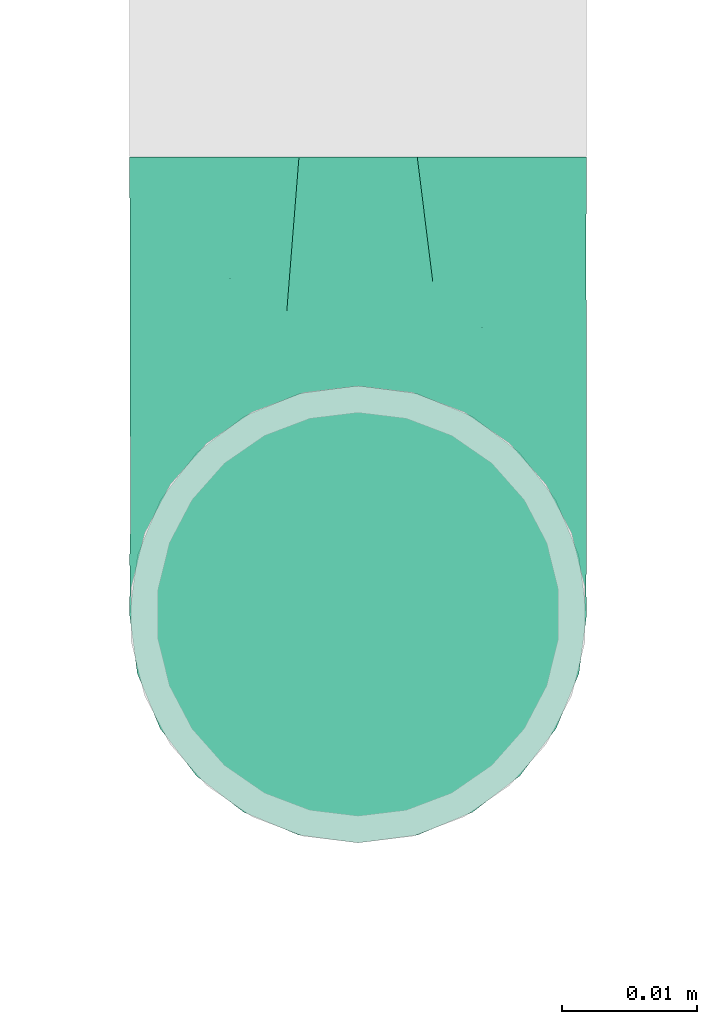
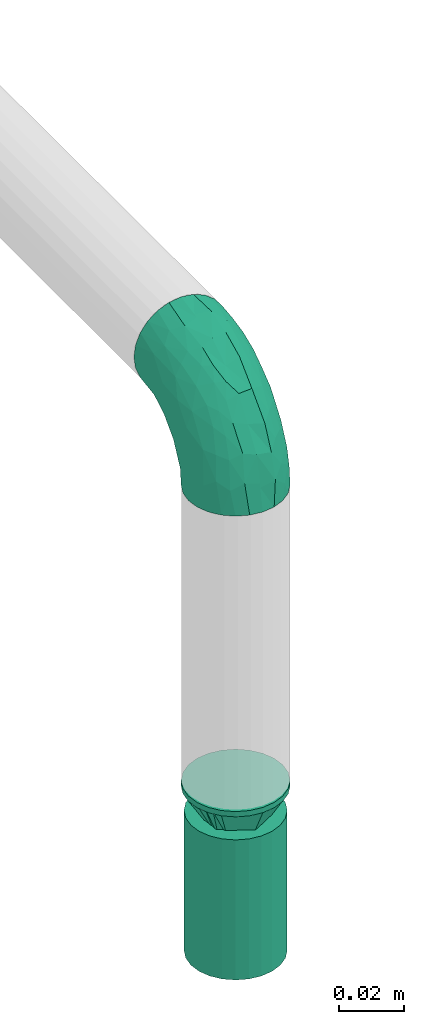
# One storey, part 16 of 51: 2 flow fittings, 1 flow terminal.
"""IFC2X3 building model written with IfcOpenShell, lengths in millimetres."""

from ifc_helpers import new_model, entity, si_unit, converted_unit, derived_unit, direction, frame, origin_with_axes, place, context, subcontext, project, spatial, open_shell, surface_model, source, transform, mapped, type_object, element, save


model = new_model("IFC2X3")

# Units and contexts
model_context = context("Model", 3, precision=0.01, world=frame((0.0, 4.29681676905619e-09, 0.0)), true_north=direction((4.01073788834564e-13, 1.0)))
plan_context = context("Plan", 3, precision=0.01, world=frame((0.0, 4.29681676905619e-09, 0.0)), true_north=direction((4.01073788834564e-13, 1.0)))
body_context = subcontext(model_context, "Body", "Model", "MODEL_VIEW")
ifc_project = project(units=[converted_unit("PLANEANGLEUNIT", "DEGREE", entity("IfcPositiveLengthMeasure", 0.0174532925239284), si_unit("PLANEANGLEUNIT", "RADIAN"), dimensions=[0, 0, 0, 0, 0, 0, 0]), si_unit("AREAUNIT", "SQUARE_METRE"), si_unit("LENGTHUNIT", "METRE", prefix="MILLI"), si_unit("MASSUNIT", "GRAM", prefix="KILO"), si_unit("POWERUNIT", "WATT"), si_unit("PRESSUREUNIT", "PASCAL"), si_unit("FORCEUNIT", "NEWTON", prefix="KILO"), si_unit("ELECTRICVOLTAGEUNIT", "VOLT"), si_unit("ELECTRICCURRENTUNIT", "AMPERE"), si_unit("THERMODYNAMICTEMPERATUREUNIT", "DEGREE_CELSIUS"), si_unit("TIMEUNIT", "SECOND"), si_unit("VOLUMEUNIT", "CUBIC_METRE"), derived_unit("LINEARVELOCITYUNIT", [(si_unit("LENGTHUNIT", "METRE"), 1), (si_unit("TIMEUNIT", "SECOND"), -1)]), derived_unit("VOLUMETRICFLOWRATEUNIT", [(si_unit("VOLUMEUNIT", "CUBIC_METRE"), 1), (si_unit("TIMEUNIT", "SECOND"), -1)]), derived_unit("THERMALTRANSMITTANCEUNIT", [(si_unit("POWERUNIT", "WATT"), 1), (si_unit("THERMODYNAMICTEMPERATUREUNIT", "KELVIN"), -1), (si_unit("AREAUNIT", "SQUARE_METRE"), -1)]), derived_unit("SOUNDPRESSUREUNIT", [(si_unit("PRESSUREUNIT", "PASCAL"), 1)])], contexts=[model_context, plan_context])

# Site, building, storey
site_placement = place(None, frame((0.0, -4.29681676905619e-09, 0.0), z_axis=(0.0, 0.0, 1.0), x_axis=(1.0, 0.0, 0.0)))
site = spatial("IfcSite", under=ifc_project, at=site_placement, Name="ENGM", CompositionType="ELEMENT")
building_placement = place(site_placement, frame((0.0, 4.29681676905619e-09, 0.0), z_axis=(0.0, 0.0, 1.0), x_axis=(1.0, 0.0, 0.0)))
building = spatial("IfcBuilding", under=site, at=building_placement, Name="TH", CompositionType="ELEMENT")
storey_placement = place(building_placement, frame((0.0, 0.0, 210200.0), z_axis=(0.0, 0.0, 1.0), x_axis=(1.0, 0.0, 0.0)))
storey = spatial("IfcBuildingStorey", under=building, at=storey_placement, Name="Nivå F - 0,7 m", CompositionType="ELEMENT", Elevation=210200.0)

# Flow fittings
pipe_fitting_type_1 = type_object("IfcPipeFittingType", Name="magi_pipe_fe_elbow_short_001", PredefinedType="BEND")
shared_shape_1 = source(origin_with_axes(), body_context, "Body", "SurfaceModel", [
    surface_model("IfcShellBasedSurfaceModel", [(-33.8, 8.45, -14.63583), (-33.8, 4.37404, -16.32415), (-33.8, 11.9501, -11.9501), (-33.8, -11.9501, -11.9501), (-33.8, -14.63583, -8.45), (-33.8, -8.45, -14.63583), (-33.8, 0.0, -16.9), (-33.8, -4.37404, -16.32415), (-33.8, -4.37404, 16.32415), (-33.8, 0.0, 16.9), (-33.8, -8.45, 14.63583), (-33.8, 16.32415, -4.37404), (-33.8, 14.63583, -8.45), (-33.8, -16.32415, -4.37404), (-33.8, -16.9, 0.0), (-33.8, -16.32415, 4.37404), (-33.8, 11.9501, 11.9501), (-33.8, 14.63583, 8.45), (-33.8, 16.32415, 4.37404), (-33.8, 4.37404, 16.32415), (-33.8, 8.45, 14.63583), (-33.8, -14.63583, 8.45), (-33.8, -11.9501, 11.9501), (-33.8, 16.9, 0.0), (-11.9501, 33.8, -11.9501), (0.0, 33.8, -16.9), (-4.37404, 33.8, -16.32415), (-8.45, 33.8, -14.63583), (-14.63583, 33.8, -8.45), (-16.32415, 33.8, -4.37404), (14.63583, 33.8, -8.45), (8.45, 33.8, 14.63583), (16.32415, 33.8, -4.37404), (8.45, 33.8, -14.63583), (11.9501, 33.8, -11.9501), (4.37404, 33.8, -16.32415), (16.32415, 33.8, 4.37404), (16.9, 33.8, 0.0), (-11.9501, 33.8, 11.9501), (-16.32415, 33.8, 4.37404), (-14.63583, 33.8, 8.45), (-8.45, 33.8, 14.63583), (-4.37404, 33.8, 16.32415), (11.9501, 33.8, 11.9501), (14.63583, 33.8, 8.45), (0.0, 33.8, 16.9), (4.37404, 33.8, 16.32415), (-16.9, 33.8, 0.0), (-24.79389, -13.12945, 9.48721), (-22.19287, -9.75018, 12.59315), (-24.09897, -14.97035, 0.0), (-14.93934, -10.76256, 8.5297), (-22.46095, -14.75051, 5.27077), (14.75051, 22.46094, 5.27077), (11.9251, 13.23888, 4.33236), (13.04069, 14.39795, 0.0), (7.71387, 13.68847, 11.55891), (9.75018, 22.19287, 12.59315), (4.10169, 13.0571, 14.04018), (-24.84007, -6.39063, 15.2048), (-25.81779, -2.23879, 16.61097), (-23.66549, 2.59054, 16.87119), (-26.50418, 14.06512, 11.08152), (-24.21253, 17.66365, 7.72657), (-29.58514, 15.86957, 7.00283), (-6.17382, -7.5455, 0.0), (-13.23888, -11.9251, 4.33236), (-14.39795, -13.04069, 0.0), (-17.81434, 18.87373, 11.97104), (-6.30846, 29.15138, 15.82987), (-2.31622, 25.28002, 16.85849), (-29.23923, 10.23435, 13.77053), (-1.45439, -2.85688, 7.61475), (-0.28326, 0.34872, 10.09509), (-5.74484, -4.04709, 10.4122), (-4.41137, 11.31918, 16.59407), (-8.39727, 3.10034, 15.7812), (-1.72649, 9.1306, 15.53089), (-17.39909, 24.75344, 7.64977), (-26.19233, 20.0512, 0.0), (-28.14518, 17.29657, 4.25857), (-26.05147, 6.6281, 15.96447), (-5.87354, 16.61944, 16.86968), (-12.51807, 12.51807, 16.48937), (-10.06312, 7.38516, 16.81295), (-3.01882, 3.01882, 13.81718), (-13.0571, -4.10169, 14.04018), (-16.82553, -0.15166, 16.38038), (10.76256, 14.93934, 8.5297), (13.12945, 24.79389, 9.48721), (6.39063, 24.84007, 15.2048), (2.23879, 25.81779, 16.61097), (-13.68847, -7.71387, 11.55891), (14.97035, 24.09897, 0.0), (-7.30894, 22.89991, 16.09489), (-10.67958, 26.17414, 14.008), (-12.78295, 18.26924, 15.06066), (-13.88562, 22.45231, 12.93244), (-18.04944, 15.16501, 14.04434), (-23.11658, 20.08178, 4.02986), (-21.84989, 21.84989, 0.0), (-18.55817, 25.48277, 3.93065), (-13.95142, 26.94732, 11.03289), (-18.57098, 7.23906, 16.59756), (-16.58335, 4.14122, 16.89279), (-17.96666, 11.46709, 15.63151), (-9.84453, 17.54304, 16.18938), (0.15166, 16.82553, 16.38038), (-23.27207, 11.47201, 14.23154), (3.84842, 5.86994, 10.70473), (-8.0212, -7.54413, 7.93275), (1.00345, -2.19508, 4.57414), (5.13203, 3.01004, 5.90201), (5.24161, 1.7543, 2.53265), (8.70457, 7.04947, 3.99182), (-20.0512, 26.19233, 0.0), (8.4852, 8.76699, 7.09296), (-4.55488, -6.72064, 4.90681), (2.05031, -2.05031, 0.0), (7.5455, 6.17382, 0.0), (-26.75399, 2.1369, -16.845), (-14.61995, 24.73803, -11.27736), (-28.45274, -13.45335, -9.81895), (-26.00469, 6.63555, -15.96645), (-23.06726, 20.04573, -4.26202), (-13.80647, -4.26506, -14.17873), (-14.67501, -0.21081, -16.07388), (-6.7902, -0.2828, -13.8478), (-24.53586, 11.08096, -14.13417), (-26.72048, 14.00837, -11.05776), (10.0967, 24.44989, -12.75976), (5.83237, 21.40218, -15.03047), (6.66249, 28.54238, -15.38093), (-20.38182, 15.48705, -12.74596), (12.53268, 21.23441, -9.15363), (12.54494, 15.67504, -5.54878), (9.7522, 12.89279, -8.66343), (-15.65186, 19.64213, -13.01327), (-12.03528, 20.66498, -14.67665), (-15.61907, 15.61906, -14.83879), (-25.56551, -15.26206, 0.0), (-24.65452, -15.12934, -5.50955), (13.45335, 28.45274, -9.81895), (15.12934, 24.65452, -5.50955), (-7.35442, -8.31014, -5.65563), (-15.67504, -12.54494, -5.54878), (-24.44989, -10.0967, -12.75976), (0.16522, 0.41303, -9.71728), (-5.70658, -5.33066, -8.89288), (-5.13869, -2.37198, -11.53565), (-21.23441, -12.53268, -9.15363), (0.71146, 7.93863, -14.09382), (0.21081, 14.67501, -16.07388), (3.49291, 14.42772, -14.76381), (-24.89911, -2.13088, -16.591), (-28.54238, -6.66249, -15.38093), (-18.44386, -7.71663, -13.26957), (2.13088, 24.89911, -16.591), (-28.64342, 17.44413, -2.89318), (1.70017, -1.28722, -5.09504), (-16.57067, 26.81947, -7.36596), (-17.69055, 27.4263, -3.76405), (-12.89279, -9.7522, -8.66343), (-5.96611, 5.96611, -15.95814), (-20.53709, 20.09345, -8.28985), (-2.1369, 26.75399, -16.845), (-6.89872, 24.58781, -16.02578), (-10.60739, 26.53157, -13.98044), (-21.40218, -5.83237, -15.03047), (2.93192, 5.89627, -11.55917), (6.89393, 12.61842, -11.82233), (5.58056, 5.95325, -8.79455), (-3.99512, 18.61798, -16.89635), (8.31014, 7.35442, -5.65563), (-9.1383, 9.86148, -16.89041), (-9.99983, 16.02119, -16.39699), (-16.68576, 9.78031, -16.34199), (-27.01915, 16.61158, -7.12979), (15.26206, 25.56551, 0.0), (-18.61798, 3.99512, -16.89635), (-19.37495, 27.82495, 0.0), (-12.61842, -6.89393, -11.82233), (-18.84705, 19.14018, -10.96545)], [open_shell([[[0, 1, 2]], [[3, 4, 5]], [[6, 7, 5]], [[8, 9, 10]], [[1, 6, 2]], [[11, 12, 2]], [[4, 2, 6]], [[2, 13, 10]], [[5, 4, 6]], [[2, 4, 13]], [[14, 15, 13]], [[11, 2, 16]], [[11, 17, 18]], [[11, 16, 17]], [[19, 20, 16]], [[16, 2, 10]], [[19, 16, 10]], [[21, 22, 15]], [[22, 13, 15]], [[22, 10, 13]], [[10, 9, 19]], [[11, 18, 23]], [[24, 25, 26]], [[24, 26, 27]], [[24, 28, 29]], [[25, 24, 30]], [[31, 32, 24]], [[33, 30, 34]], [[33, 35, 25]], [[25, 30, 33]], [[32, 30, 24]], [[32, 36, 37]], [[38, 24, 29]], [[39, 40, 29]], [[40, 38, 29]], [[38, 41, 42]], [[38, 31, 24]], [[31, 38, 42]], [[36, 43, 44]], [[36, 32, 43]], [[31, 45, 46]], [[32, 31, 43]], [[42, 45, 31]], [[39, 29, 47]], [[22, 48, 49]], [[15, 14, 50]], [[51, 48, 52]], [[53, 54, 55]], [[48, 22, 21]], [[15, 52, 21]], [[56, 57, 58]], [[49, 10, 22]], [[49, 59, 10]], [[9, 60, 61]], [[62, 63, 64]], [[65, 66, 67]], [[57, 43, 31]], [[62, 68, 63]], [[42, 69, 70]], [[20, 71, 16]], [[8, 60, 9]], [[72, 73, 74]], [[75, 76, 77]], [[16, 62, 17]], [[40, 39, 78]], [[79, 23, 80]], [[64, 18, 17]], [[9, 61, 19]], [[19, 81, 20]], [[82, 83, 84]], [[74, 85, 86]], [[59, 86, 87]], [[88, 89, 57]], [[90, 31, 46]], [[44, 53, 36]], [[46, 45, 91]], [[54, 53, 88]], [[44, 89, 53]], [[92, 86, 49]], [[89, 44, 43]], [[10, 59, 8]], [[53, 55, 93]], [[93, 36, 53]], [[66, 52, 67]], [[94, 82, 70]], [[95, 96, 94]], [[97, 98, 96]], [[79, 99, 100]], [[41, 38, 95]], [[101, 100, 99]], [[68, 78, 63]], [[42, 41, 69]], [[23, 18, 80]], [[95, 94, 69]], [[78, 101, 99]], [[38, 102, 95]], [[70, 45, 42]], [[97, 95, 102]], [[15, 50, 52]], [[90, 57, 31]], [[57, 90, 58]], [[81, 19, 61]], [[103, 104, 84]], [[105, 81, 103]], [[38, 40, 102]], [[106, 96, 83]], [[94, 106, 82]], [[91, 70, 107]], [[71, 62, 16]], [[62, 108, 98]], [[86, 59, 49]], [[67, 52, 50]], [[60, 59, 87]], [[92, 49, 51]], [[86, 85, 76]], [[91, 90, 46]], [[37, 36, 93]], [[107, 77, 58]], [[107, 58, 90]], [[58, 85, 109]], [[110, 74, 92]], [[72, 74, 110]], [[66, 51, 52]], [[72, 111, 112]], [[113, 114, 112]], [[56, 88, 57]], [[52, 48, 21]], [[49, 48, 51]], [[57, 89, 43]], [[53, 89, 88]], [[103, 81, 61]], [[71, 81, 108]], [[18, 64, 80]], [[63, 78, 99]], [[47, 115, 101]], [[101, 115, 100]], [[40, 78, 102]], [[68, 102, 78]], [[97, 96, 95]], [[105, 98, 108]], [[103, 84, 83]], [[107, 70, 82]], [[76, 84, 87]], [[82, 84, 75]], [[70, 91, 45]], [[90, 91, 107]], [[59, 60, 8]], [[61, 60, 87]], [[73, 85, 74]], [[109, 112, 116]], [[103, 61, 104]], [[105, 103, 83]], [[96, 105, 83]], [[81, 105, 108]], [[96, 98, 105]], [[62, 98, 68]], [[61, 87, 104]], [[87, 84, 104]], [[86, 76, 87]], [[77, 76, 85]], [[58, 77, 85]], [[75, 77, 107]], [[82, 75, 107]], [[76, 75, 84]], [[81, 71, 20]], [[62, 71, 108]], [[95, 69, 41]], [[70, 69, 94]], [[62, 64, 17]], [[80, 63, 99]], [[63, 80, 64]], [[80, 99, 79]], [[66, 65, 117]], [[110, 66, 117]], [[112, 114, 116]], [[118, 117, 65]], [[110, 92, 51]], [[112, 111, 113]], [[119, 55, 54]], [[74, 86, 92]], [[58, 109, 56]], [[116, 56, 109]], [[66, 110, 51]], [[72, 110, 117]], [[111, 72, 117]], [[73, 112, 109]], [[117, 118, 111]], [[113, 111, 118]], [[118, 119, 113]], [[114, 119, 54]], [[119, 114, 113]], [[116, 54, 88]], [[54, 116, 114]], [[116, 88, 56]], [[112, 73, 72]], [[85, 73, 109]], [[78, 39, 101]], [[47, 101, 39]], [[102, 68, 97]], [[97, 68, 98]], [[82, 106, 83]], [[94, 96, 106]], [[1, 120, 6]], [[28, 24, 121]], [[3, 122, 4]], [[0, 123, 1]], [[100, 124, 79]], [[125, 126, 127]], [[128, 2, 129]], [[130, 131, 132]], [[128, 129, 133]], [[134, 135, 136]], [[137, 138, 139]], [[128, 0, 2]], [[67, 140, 141]], [[134, 142, 143]], [[141, 13, 4]], [[144, 65, 145]], [[146, 3, 5]], [[147, 148, 149]], [[145, 141, 150]], [[151, 152, 153]], [[154, 7, 6]], [[5, 155, 146]], [[150, 146, 156]], [[155, 5, 7]], [[143, 135, 134]], [[35, 157, 25]], [[23, 79, 158]], [[148, 159, 144]], [[160, 161, 29]], [[145, 162, 144]], [[163, 152, 151]], [[29, 28, 160]], [[121, 164, 160]], [[33, 34, 130]], [[25, 165, 26]], [[26, 165, 166]], [[142, 34, 30]], [[24, 27, 167]], [[124, 161, 164]], [[157, 35, 132]], [[155, 154, 168]], [[123, 0, 128]], [[169, 170, 171]], [[172, 157, 152]], [[26, 166, 27]], [[132, 35, 33]], [[142, 130, 34]], [[168, 154, 126]], [[136, 135, 173]], [[133, 137, 139]], [[2, 12, 129]], [[170, 131, 130]], [[30, 32, 143]], [[172, 174, 175]], [[176, 123, 128]], [[158, 177, 11]], [[135, 55, 119]], [[167, 27, 166]], [[175, 166, 172]], [[137, 167, 138]], [[122, 141, 4]], [[140, 14, 13]], [[32, 37, 178]], [[170, 130, 134]], [[152, 157, 131]], [[165, 157, 172]], [[153, 170, 151]], [[152, 163, 174]], [[168, 125, 156]], [[122, 146, 150]], [[120, 154, 6]], [[179, 174, 126]], [[179, 126, 154]], [[126, 163, 127]], [[162, 145, 150]], [[140, 13, 141]], [[32, 178, 143]], [[55, 143, 178]], [[177, 129, 12]], [[128, 133, 139]], [[176, 128, 139]], [[120, 123, 179]], [[121, 160, 28]], [[161, 100, 180]], [[166, 175, 138]], [[121, 24, 167]], [[161, 47, 29]], [[79, 124, 158]], [[124, 164, 177]], [[161, 124, 100]], [[136, 171, 170]], [[127, 163, 151]], [[147, 171, 159]], [[148, 144, 162]], [[127, 151, 169]], [[127, 181, 125]], [[129, 177, 164]], [[12, 11, 177]], [[159, 65, 144]], [[67, 141, 145]], [[143, 55, 135]], [[135, 119, 173]], [[123, 120, 1]], [[154, 120, 179]], [[157, 165, 25]], [[166, 165, 172]], [[172, 152, 174]], [[176, 139, 175]], [[126, 174, 163]], [[176, 174, 179]], [[174, 176, 175]], [[123, 176, 179]], [[150, 181, 162]], [[127, 149, 181]], [[181, 148, 162]], [[159, 148, 147]], [[171, 136, 173]], [[170, 134, 136]], [[159, 171, 173]], [[171, 147, 169]], [[169, 147, 149]], [[151, 170, 169]], [[164, 182, 129]], [[182, 121, 137]], [[181, 149, 148]], [[169, 149, 127]], [[182, 137, 133]], [[167, 137, 121]], [[166, 138, 167]], [[175, 139, 138]], [[129, 182, 133]], [[121, 182, 164]], [[161, 160, 164]], [[47, 161, 180]], [[177, 158, 124]], [[23, 158, 11]], [[130, 132, 33]], [[157, 132, 131]], [[143, 142, 30]], [[130, 142, 134]], [[154, 155, 7]], [[146, 155, 168]], [[146, 122, 3]], [[141, 122, 150]], [[152, 131, 153]], [[159, 119, 118]], [[67, 145, 65]], [[170, 153, 131]], [[119, 159, 173]], [[159, 118, 65]], [[156, 125, 181]], [[126, 125, 168]], [[150, 156, 181]], [[168, 156, 146]]])]),
])
flow_fitting_1_placement = place(storey_placement, frame((897100.0, 481369.15075, 3056.95199999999), z_axis=(-1.0, 0.0, 0.0), x_axis=(0.0, 0.0, 1.0)))
element("IfcFlowFitting", 1, at=flow_fitting_1_placement, inside=storey, type_object=pipe_fitting_type_1, Name="magi_pipe_fe_elbow_short_001", context=body_context, shape_type="MappedRepresentation", body=[
    mapped(shared_shape_1, transform((0.0, 0.0, 0.0), scale=1.0)),
])
pipe_fitting_type_2 = type_object("IfcPipeFittingType", Name="magi_pipe_fe_reducer_centric_short_NOR", PredefinedType="TRANSITION")
shared_shape_2 = source(origin_with_axes(), body_context, "Body", "SurfaceModel", [
    surface_model("IfcShellBasedSurfaceModel", [(-2.0, -7.56604, -7.56604), (-2.0, -10.33541, -2.76936), (-2.0, -5.35, -9.26647), (12.4, 11.9501, 11.9501), (12.4, 0.0, 16.9), (12.4, 11.9501, -11.9501), (12.4, 16.9, 0.0), (0.0, -10.7, 0.0), (0.0, -5.35, 9.26647), (0.0, -5.35, -9.26647), (12.4, -15.66253, -2.98753), (12.4, -16.9, 0.0), (12.4, -11.9501, -11.9501), (0.0, -6.6875, -6.94985), (12.4, -8.96258, -13.18758), (0.0, 10.7, 0.0), (12.4, 15.66253, -2.98753), (12.4, -5.97505, -14.42505), (12.4, 8.96258, -13.18758), (0.0, 6.6875, -6.94985), (12.4, 5.97505, -14.42505), (0.0, 5.35, -9.26647), (0.0, -9.3625, -2.31662), (0.0, -8.025, -4.63324), (12.4, -14.42505, -5.97505), (12.4, 14.42505, -5.97505), (0.0, 8.025, -4.63324), (0.0, 9.3625, -2.31662), (12.4, 13.18758, -8.96258), (12.4, -13.18758, -8.96258), (12.4, 15.66253, 2.98753), (0.0, 6.6875, 6.94985), (12.4, 8.96258, 13.18758), (12.4, -15.66253, 2.98753), (0.0, 5.35, 9.26647), (12.4, 5.97505, 14.42505), (12.4, -8.96258, 13.18758), (0.0, -6.6875, 6.94985), (12.4, -11.9501, 11.9501), (12.4, -5.97505, 14.42505), (0.0, 9.3625, 2.31662), (0.0, 8.025, 4.63324), (12.4, 14.42505, 5.97505), (12.4, -14.42505, 5.97505), (0.0, -8.025, 4.63324), (0.0, -9.3625, 2.31662), (12.4, -13.18758, 8.96258), (12.4, 13.18758, 8.96258), (14.4, -11.9501, -11.9501), (14.4, -8.45, -14.63583), (14.4, -4.37404, -16.32415), (14.4, 8.45, -14.63583), (14.4, 16.9, 0.0), (14.4, -14.63583, -8.45), (14.4, -16.32415, -4.37404), (14.4, -4.37404, 16.32415), (14.4, 4.37404, -16.32415), (14.4, 0.0, -16.9), (14.4, 14.63583, -8.45), (14.4, 16.32415, -4.37404), (14.4, 11.9501, -11.9501), (14.4, -16.32415, 4.37404), (14.4, -16.9, 0.0), (14.4, -11.9501, 11.9501), (14.4, -14.63583, 8.45), (14.4, -8.45, 14.63583), (14.4, 0.0, 16.9), (14.4, 16.32415, 4.37404), (14.4, 14.63583, 8.45), (14.4, 11.9501, 11.9501), (14.4, 8.45, 14.63583), (14.4, 4.37404, 16.32415), (12.4, 14.63583, 8.45), (12.4, -4.37404, 16.32415), (12.4, -8.45, 14.63583), (12.4, -16.32415, 4.37404), (12.4, -14.63583, 8.45), (12.4, 8.45, 14.63583), (12.4, 4.37404, 16.32415), (12.4, 16.32415, 4.37404), (12.4, 16.32415, -4.37404), (12.4, 8.45, -14.63583), (12.4, -16.32415, -4.37404), (12.4, -14.63583, -8.45), (12.4, -4.37404, -16.32415), (12.4, -8.45, -14.63583), (12.4, 14.63583, -8.45), (12.4, 4.37404, -16.32415), (12.4, 0.0, -16.9), (-2.0, -2.76936, 10.33541), (-2.0, 0.0, 10.7), (-2.0, -10.33541, 2.76936), (-2.0, -5.35, 9.26647), (-2.0, -7.56604, 7.56604), (-2.0, -9.26647, 5.35), (-2.0, 9.26647, 5.35), (-2.0, 5.35, 9.26647), (-2.0, 7.56604, 7.56604), (-2.0, 2.76936, 10.33541), (-2.0, 10.7, 0.0), (-2.0, 10.33541, -2.76936), (-2.0, 10.33541, 2.76936), (-2.0, -9.26647, -5.35), (-2.0, 5.35, -9.26647), (-2.0, -2.76936, -10.33541), (-2.0, 9.26647, -5.35), (-2.0, 7.56604, -7.56604), (-2.0, 2.76936, -10.33541), (-2.0, 0.0, -10.7), (-2.0, -10.7, 0.0), (0.0, -2.76936, -10.33541), (0.0, 0.0, -10.7), (0.0, -7.56604, -7.56604), (0.0, -10.33541, -2.76936), (0.0, 10.33541, -2.76936), (0.0, -9.26647, -5.35), (0.0, 9.26647, 5.35), (0.0, 2.76936, -10.33541), (0.0, 9.26647, -5.35), (0.0, 7.56604, -7.56604), (0.0, -10.33541, 2.76936), (0.0, -7.56604, 7.56604), (0.0, -9.26647, 5.35), (0.0, 0.0, 10.7), (0.0, -2.76936, 10.33541), (0.0, 10.33541, 2.76936), (0.0, 2.76936, 10.33541), (0.0, 7.56604, 7.56604), (12.4, -2.98753, -15.66253), (0.0, -2.675, -9.26647), (0.0, 2.675, -9.26647), (12.4, 2.98753, -15.66253), (0.0, 0.0, -9.26647), (12.4, 2.98753, 15.66253), (0.0, 2.675, 9.26647), (0.0, -2.675, 9.26647), (12.4, -2.98753, 15.66253), (0.0, 0.0, 9.26647)], [open_shell([[[0, 1, 2]], [[3, 4, 5]], [[5, 6, 3]], [[7, 8, 9]], [[10, 11, 7]], [[12, 13, 14]], [[15, 6, 16]], [[9, 17, 14]], [[18, 19, 5]], [[18, 20, 21]], [[22, 23, 24]], [[25, 26, 27]], [[26, 25, 28]], [[29, 24, 23]], [[30, 6, 15]], [[3, 31, 32]], [[7, 11, 33]], [[34, 35, 32]], [[36, 37, 38]], [[36, 39, 8]], [[40, 41, 42]], [[43, 44, 45]], [[44, 43, 46]], [[47, 42, 41]], [[48, 49, 50]], [[48, 50, 51]], [[51, 52, 48]], [[53, 48, 54]], [[48, 55, 54]], [[56, 51, 57]], [[51, 50, 57]], [[58, 59, 60]], [[51, 60, 59]], [[59, 52, 51]], [[61, 62, 54]], [[63, 64, 61]], [[55, 63, 61]], [[48, 52, 55]], [[65, 63, 55]], [[66, 55, 52]], [[67, 68, 66]], [[66, 52, 67]], [[69, 70, 68]], [[70, 66, 68]], [[71, 66, 70]], [[61, 54, 55]], [[4, 72, 73]], [[74, 73, 75]], [[75, 76, 38]], [[74, 75, 38]], [[75, 73, 72]], [[3, 72, 77]], [[4, 78, 77]], [[77, 72, 4]], [[75, 72, 79]], [[6, 80, 79]], [[81, 75, 79]], [[12, 82, 75]], [[83, 82, 12]], [[84, 85, 12]], [[12, 75, 81]], [[12, 81, 84]], [[86, 5, 80]], [[81, 80, 5]], [[87, 88, 81]], [[81, 79, 80]], [[81, 88, 84]], [[11, 75, 82]], [[6, 59, 80]], [[80, 58, 86]], [[81, 5, 51]], [[60, 5, 86]], [[87, 81, 56]], [[59, 58, 80]], [[6, 52, 59]], [[81, 51, 56]], [[51, 5, 60]], [[86, 58, 60]], [[87, 56, 57]], [[57, 88, 87]], [[88, 50, 84]], [[84, 49, 85]], [[83, 12, 53]], [[48, 12, 85]], [[82, 83, 54]], [[49, 48, 85]], [[84, 50, 49]], [[82, 54, 62]], [[54, 83, 53]], [[12, 48, 53]], [[82, 62, 11]], [[57, 50, 88]], [[11, 61, 75]], [[75, 64, 76]], [[74, 38, 65]], [[63, 38, 76]], [[73, 74, 55]], [[61, 64, 75]], [[11, 62, 61]], [[74, 65, 55]], [[65, 38, 63]], [[76, 64, 63]], [[73, 55, 66]], [[66, 4, 73]], [[4, 71, 78]], [[78, 70, 77]], [[72, 3, 68]], [[69, 3, 77]], [[79, 72, 67]], [[70, 69, 77]], [[78, 71, 70]], [[79, 67, 52]], [[67, 72, 68]], [[3, 69, 68]], [[79, 52, 6]], [[66, 71, 4]], [[89, 90, 91]], [[92, 89, 93]], [[91, 94, 93]], [[89, 91, 93]], [[95, 91, 90]], [[96, 97, 98]], [[95, 98, 97]], [[99, 100, 101]], [[90, 98, 95]], [[100, 95, 101]], [[1, 91, 95]], [[1, 95, 100]], [[102, 1, 0]], [[100, 2, 1]], [[2, 103, 104]], [[105, 106, 100]], [[103, 100, 106]], [[107, 108, 103]], [[2, 100, 103]], [[103, 108, 104]], [[109, 91, 1]], [[110, 111, 9]], [[112, 9, 113]], [[113, 9, 114]], [[115, 112, 113]], [[113, 114, 116]], [[117, 21, 111]], [[21, 9, 111]], [[118, 114, 119]], [[21, 119, 114]], [[21, 114, 9]], [[120, 7, 113]], [[121, 122, 120]], [[116, 121, 113]], [[121, 123, 124]], [[8, 121, 124]], [[123, 121, 116]], [[15, 125, 114]], [[114, 125, 116]], [[34, 126, 127]], [[116, 127, 126]], [[116, 126, 123]], [[121, 120, 113]], [[99, 114, 100]], [[100, 118, 105]], [[103, 106, 21]], [[119, 106, 105]], [[107, 103, 117]], [[114, 118, 100]], [[99, 15, 114]], [[103, 21, 117]], [[21, 106, 119]], [[105, 118, 119]], [[107, 117, 111]], [[111, 108, 107]], [[108, 110, 104]], [[104, 9, 2]], [[102, 0, 115]], [[112, 0, 2]], [[1, 102, 113]], [[9, 112, 2]], [[104, 110, 9]], [[1, 113, 7]], [[113, 102, 115]], [[0, 112, 115]], [[1, 7, 109]], [[111, 110, 108]], [[109, 120, 91]], [[91, 122, 94]], [[92, 93, 8]], [[121, 93, 94]], [[89, 92, 124]], [[120, 122, 91]], [[109, 7, 120]], [[92, 8, 124]], [[8, 93, 121]], [[94, 122, 121]], [[89, 124, 123]], [[123, 90, 89]], [[90, 126, 98]], [[98, 34, 96]], [[95, 97, 116]], [[127, 97, 96]], [[101, 95, 125]], [[34, 127, 96]], [[98, 126, 34]], [[101, 125, 15]], [[125, 95, 116]], [[97, 127, 116]], [[101, 15, 99]], [[123, 126, 90]], [[4, 38, 11]], [[11, 88, 5]], [[88, 11, 12]], [[4, 11, 5]], [[8, 34, 15]], [[21, 9, 15]], [[8, 15, 9]], [[128, 17, 129]], [[16, 25, 27]], [[130, 21, 20]], [[18, 21, 19]], [[24, 10, 22]], [[26, 28, 19]], [[20, 131, 130]], [[9, 129, 17]], [[13, 12, 29]], [[9, 14, 13]], [[129, 132, 128]], [[130, 131, 132]], [[29, 23, 13]], [[132, 131, 88]], [[16, 27, 15]], [[22, 10, 7]], [[5, 19, 28]], [[132, 88, 128]], [[133, 35, 134]], [[33, 43, 45]], [[135, 8, 39]], [[36, 8, 37]], [[42, 30, 40]], [[44, 46, 37]], [[39, 136, 135]], [[34, 134, 35]], [[31, 3, 47]], [[34, 32, 31]], [[134, 137, 133]], [[135, 136, 137]], [[47, 41, 31]], [[137, 136, 4]], [[33, 45, 7]], [[40, 30, 15]], [[38, 37, 46]], [[137, 4, 133]]])]),
])
flow_fitting_2_placement = place(storey_placement, frame((897100.0, 481369.15075, 2896.95199999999), z_axis=(1.0, 0.0, 0.0), x_axis=(0.0, 0.0, 1.0)))
element("IfcFlowFitting", 2, at=flow_fitting_2_placement, inside=storey, type_object=pipe_fitting_type_2, Name="magi_pipe_fe_reducer_centric_short_NOR", context=body_context, shape_type="MappedRepresentation", body=[
    mapped(shared_shape_2, transform((0.0, 0.0, 0.0), scale=1.0)),
])

# Flow terminal
fire_suppression_terminal_type = type_object("IfcFireSuppressionTerminalType", Name="SP-15-K80-68DGR-STD-HIMLING", PredefinedType="NOTDEFINED")
shared_shape_3 = source(origin_with_axes(), body_context, "Body", "SurfaceModel", [
    surface_model("IfcShellBasedSurfaceModel", [(4.1411, -15.45481, 53.0), (8.0, -13.85641, 53.0), (11.31371, -11.31371, 53.0), (-8.0, -13.85641, 53.0), (15.45481, -4.1411, 53.0), (16.0, 0.0, 53.0), (13.85641, -8.0, 53.0), (0.0, -16.0, 53.0), (-4.1411, -15.45481, 53.0), (-13.85641, -8.0, 53.0), (-11.31371, -11.31371, 53.0), (-15.45481, -4.1411, 53.0), (15.45481, 4.1411, 53.0), (13.85641, 8.0, 53.0), (11.31371, 11.31371, 53.0), (-4.1411, 15.45481, 53.0), (8.0, 13.85641, 53.0), (4.1411, 15.45481, 53.0), (0.0, 16.0, 53.0), (-13.85641, 8.0, 53.0), (-15.45481, 4.1411, 53.0), (-16.0, 0.0, 53.0), (-11.31371, 11.31371, 53.0), (-8.0, 13.85641, 53.0), (0.0, 16.0, 0.0), (4.1411, 15.45481, 0.0), (8.0, 13.85641, 0.0), (-4.1411, 15.45481, 0.0), (11.31371, 11.31371, 0.0), (13.85641, 8.0, 0.0), (15.45481, 4.1411, 0.0), (-15.45481, -4.1411, 0.0), (-11.31371, 11.31371, 0.0), (-8.0, 13.85641, 0.0), (-13.85641, 8.0, 0.0), (-15.45481, 4.1411, 0.0), (-16.0, 0.0, 0.0), (4.1411, -15.45481, 0.0), (16.0, 0.0, 0.0), (15.45481, -4.1411, 0.0), (13.85641, -8.0, 0.0), (11.31371, -11.31371, 0.0), (8.0, -13.85641, 0.0), (-8.0, -13.85641, 0.0), (-13.85641, -8.0, 0.0), (-11.31371, -11.31371, 0.0), (0.0, -16.0, 0.0), (-4.1411, -15.45481, 0.0)], [open_shell([[[0, 1, 2]], [[3, 0, 2]], [[4, 5, 2]], [[4, 2, 6]], [[3, 2, 5]], [[7, 3, 8]], [[7, 0, 3]], [[3, 9, 10]], [[9, 3, 11]], [[5, 11, 3]], [[5, 12, 11]], [[12, 13, 14]], [[15, 12, 14]], [[16, 17, 18]], [[14, 16, 15]], [[18, 15, 16]], [[11, 19, 20]], [[21, 11, 20]], [[22, 15, 23]], [[15, 22, 19]], [[19, 11, 15]], [[11, 12, 15]], [[24, 25, 26]], [[27, 24, 26]], [[28, 29, 30]], [[27, 26, 28]], [[27, 28, 31]], [[27, 32, 33]], [[32, 27, 34]], [[34, 31, 35]], [[31, 34, 27]], [[35, 31, 36]], [[28, 30, 31]], [[37, 38, 39]], [[37, 39, 40]], [[41, 42, 37]], [[41, 37, 40]], [[38, 37, 43]], [[44, 43, 45]], [[43, 44, 31]], [[43, 46, 47]], [[43, 31, 38]], [[37, 46, 43]], [[38, 31, 30]], [[11, 31, 44]], [[45, 9, 44]], [[3, 43, 47]], [[45, 43, 10]], [[8, 47, 46]], [[31, 21, 36]], [[31, 11, 21]], [[44, 9, 11]], [[45, 10, 9]], [[3, 10, 43]], [[47, 8, 3]], [[46, 7, 8]], [[0, 37, 42]], [[41, 1, 42]], [[6, 40, 39]], [[41, 40, 2]], [[4, 39, 38]], [[37, 0, 7]], [[42, 1, 0]], [[41, 2, 1]], [[40, 6, 2]], [[4, 6, 39]], [[38, 5, 4]], [[37, 7, 46]], [[12, 38, 30]], [[13, 30, 29]], [[16, 26, 25]], [[17, 25, 24]], [[30, 13, 12]], [[12, 5, 38]], [[28, 14, 13]], [[28, 26, 14]], [[14, 26, 16]], [[25, 17, 16]], [[28, 13, 29]], [[24, 18, 17]], [[15, 27, 33]], [[32, 23, 33]], [[19, 34, 35]], [[32, 34, 22]], [[20, 35, 36]], [[27, 15, 18]], [[33, 23, 15]], [[32, 22, 23]], [[34, 19, 22]], [[20, 19, 35]], [[36, 21, 20]], [[27, 18, 24]]])]),
])
flow_terminal_placement = place(storey_placement, frame((897100.0, 481369.15075, 2900.0), z_axis=(0.0, 0.0, -1.0), x_axis=(-1.0, 0.0, 0.0)))
element("IfcFlowTerminal", 3, at=flow_terminal_placement, inside=storey, type_object=fire_suppression_terminal_type, Name="SP-15-K80-68DGR-STD-HIMLING", context=body_context, shape_type="MappedRepresentation", body=[
    mapped(shared_shape_3, transform((0.0, 0.0, 0.0), scale=1.0)),
])

save(model, "model.ifc")
